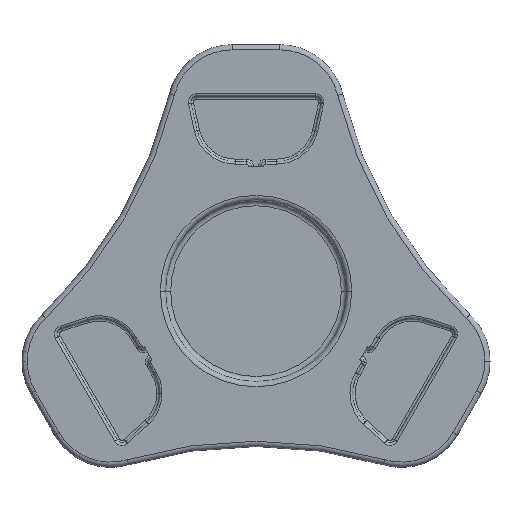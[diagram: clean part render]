
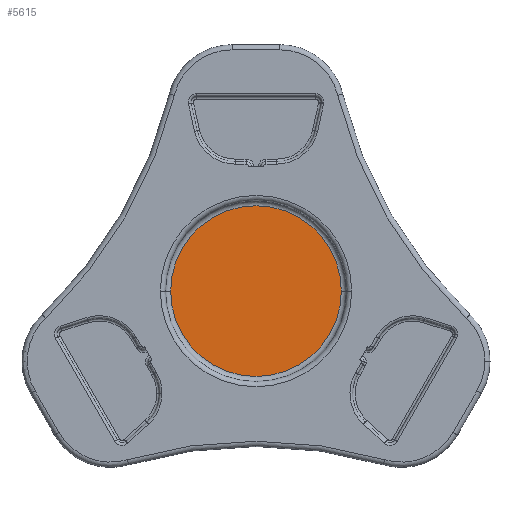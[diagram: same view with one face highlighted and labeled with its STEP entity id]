
A CAD part, top view. The second image highlights one B-rep face of the part: STEP entity #5615.
In plain terms, the highlighted planar face has unit normal (0, 0, 1).
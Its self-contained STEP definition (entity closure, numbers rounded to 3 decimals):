
#161 = CARTESIAN_POINT ( 'NONE',  ( -16.5, 0., 12.5 ) ) ;
#502 = AXIS2_PLACEMENT_3D ( 'NONE', #725, #3733, #693 ) ;
#693 = DIRECTION ( 'NONE',  ( 1., 0., 0. ) ) ;
#702 = CIRCLE ( 'NONE', #6327, 16.5 ) ;
#725 = CARTESIAN_POINT ( 'NONE',  ( 0., 0., 12.5 ) ) ;
#733 = DIRECTION ( 'NONE',  ( 0., 0., 1. ) ) ;
#925 = EDGE_LOOP ( 'NONE', ( #6067, #3868 ) ) ;
#1931 = CIRCLE ( 'NONE', #5311, 16.5 ) ;
#2079 = DIRECTION ( 'NONE',  ( 1., 0., 0. ) ) ;
#2154 = VERTEX_POINT ( 'NONE', #3669 ) ;
#2228 = PLANE ( 'NONE',  #502 ) ;
#3669 = CARTESIAN_POINT ( 'NONE',  ( 16.5, 0., 12.5 ) ) ;
#3674 = FACE_OUTER_BOUND ( 'NONE', #925, .T. ) ;
#3733 = DIRECTION ( 'NONE',  ( 0., 0., 1. ) ) ;
#3868 = ORIENTED_EDGE ( 'NONE', *, *, #4806, .T. ) ;
#4099 = DIRECTION ( 'NONE',  ( 0., 0., 1. ) ) ;
#4792 = EDGE_CURVE ( 'NONE', #2154, #4825, #1931, .T. ) ;
#4806 = EDGE_CURVE ( 'NONE', #4825, #2154, #702, .T. ) ;
#4825 = VERTEX_POINT ( 'NONE', #161 ) ;
#5004 = DIRECTION ( 'NONE',  ( 1., 0., 0. ) ) ;
#5037 = CARTESIAN_POINT ( 'NONE',  ( 0., 0., 12.5 ) ) ;
#5311 = AXIS2_PLACEMENT_3D ( 'NONE', #5513, #4099, #5004 ) ;
#5513 = CARTESIAN_POINT ( 'NONE',  ( 0., 0., 12.5 ) ) ;
#5615 = ADVANCED_FACE ( 'NONE', ( #3674 ), #2228, .T. ) ;
#6067 = ORIENTED_EDGE ( 'NONE', *, *, #4792, .T. ) ;
#6327 = AXIS2_PLACEMENT_3D ( 'NONE', #5037, #733, #2079 ) ;
